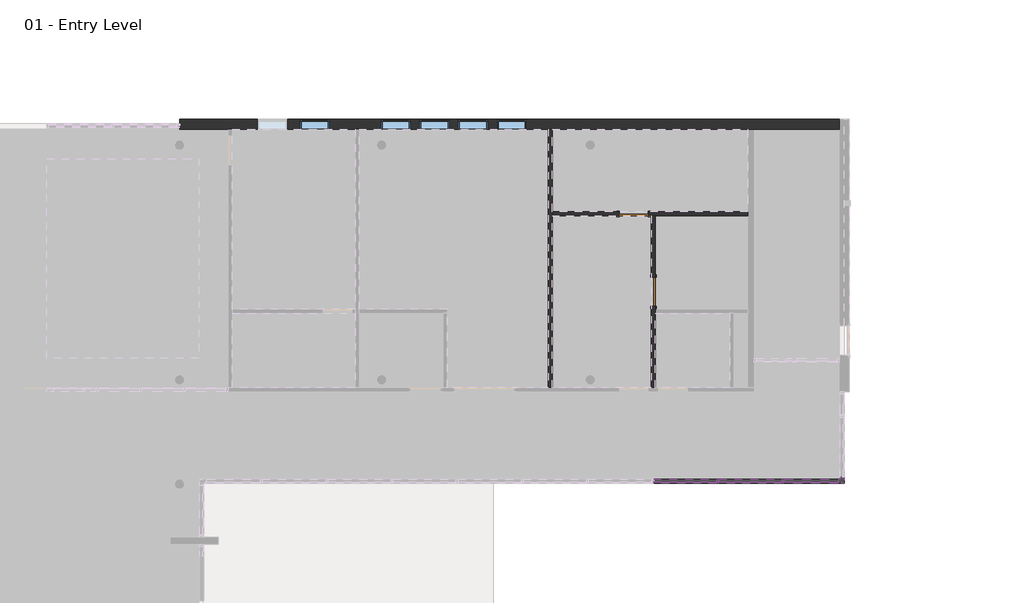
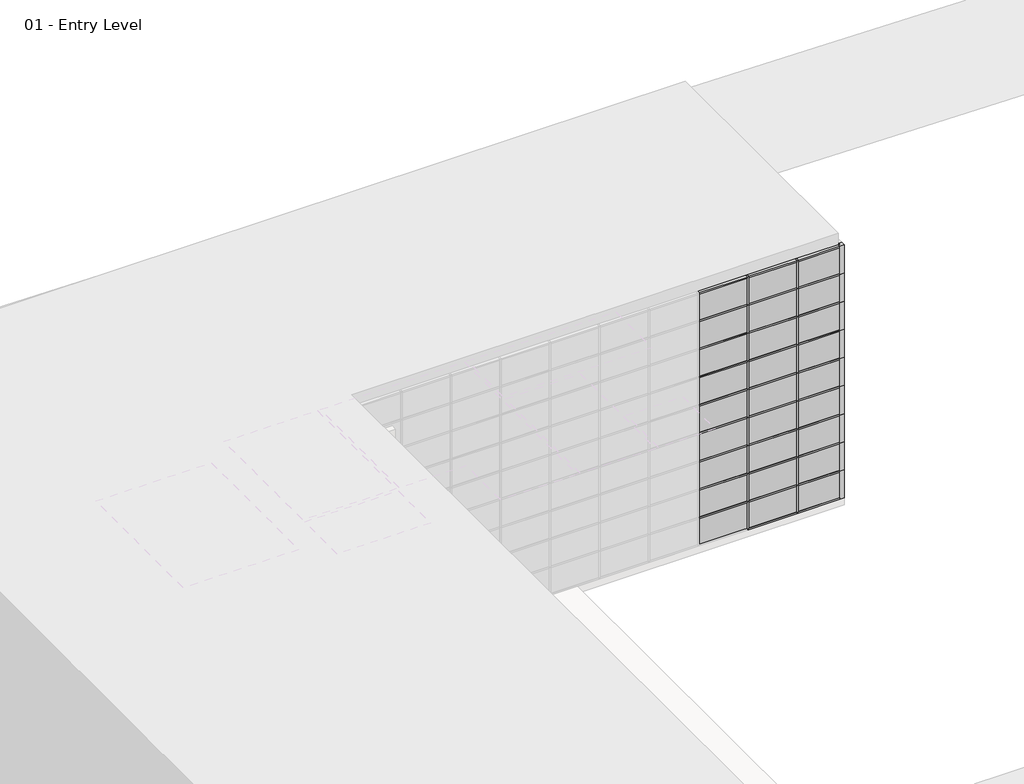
# One storey, part 30 of 34: 57 members, 28 plates, 5 windows, 4 walls, 2 doors.
"""IFC4 building model written with IfcOpenShell, lengths in millimetres."""

from ifc_helpers import new_model, si_unit, origin, place, context, project, spatial, faceted_brep, transform, mapped, element, save
from components import door_a1797ceb, door_a3eb833a, member_6230916f, member_2b49869a, member_391b434c, member_9e90ae50, member_515a5600, member_9fe7059d, member_9822c4e5, system_panel_glazed_1b9d6098, system_panel_glazed_70da479d, system_panel_glazed_379c68fb, system_panel_glazed_1c1023c8, system_panel_glazed_01db37db, window_dfee3f32

model = new_model("IFC4")

# Units and contexts
model_context = context("Model", 3, world=origin())
ifc_project = project(units=[si_unit("LENGTHUNIT", "METRE", prefix="MILLI")], contexts=[model_context])

# Site, building, storey
site = spatial("IfcSite", under=ifc_project)
building = spatial("IfcBuilding", under=site)
storey = spatial("IfcBuildingStorey", under=building, Name="01 - Entry Level", Elevation=0.0)

# Doors
placement = place(None, origin())
door_shape = door_a1797ceb(model_context)
element("IfcDoor", 1, ObjectType="Single-Flush : 36\" x 84\"", at=placement, inside=storey, context=model_context, shape_type="MappedRepresentation", body=[
    mapped(door_shape, transform((31255.6207476, 48656.8, 0.0), x_axis=(0.0, -1.0, 0.0), y_axis=(1.0, 0.0, 0.0), z_axis=(0.0, 0.0, 1.0))),
])
door_2_shape = door_a3eb833a(model_context)
element("IfcDoor", 2, ObjectType="Single-Flush : 36\" x 84\"", at=placement, inside=storey, context=model_context, shape_type="MappedRepresentation", body=[
    mapped(door_2_shape, transform((30646.0207476, 51082.5, 0.0), x_axis=(1.0, 0.0, 0.0), y_axis=(0.0, 1.0, 0.0), z_axis=(0.0, 0.0, 1.0))),
])

# Members
member_shape = member_6230916f(model_context)
element("IfcMember", 3, ObjectType="L Corner Mullion : 5\" x 5\" Corner", at=placement, inside=storey, context=model_context, shape_type="MappedRepresentation", body=[
    mapped(member_shape, transform((37148.4207476, 42751.3, 10972.8), x_axis=(0.0, -1.0, 0.0), y_axis=(1.0, 0.0, 0.0), z_axis=(0.0, 0.0, 1.0))),
])
element("IfcMember", 4, ObjectType="L Corner Mullion : 5\" x 5\" Corner", at=placement, inside=storey, context=model_context, shape_type="MappedRepresentation", body=[
    mapped(member_shape, transform((37148.4207476, 42751.3, 1219.2), x_axis=(0.0, -1.0, 0.0), y_axis=(1.0, 0.0, 0.0), z_axis=(0.0, 0.0, 1.0))),
])
element("IfcMember", 5, ObjectType="L Corner Mullion : 5\" x 5\" Corner", at=placement, inside=storey, context=model_context, shape_type="MappedRepresentation", body=[
    mapped(member_shape, transform((37148.4207476, 42751.3, 2438.4), x_axis=(0.0, -1.0, 0.0), y_axis=(1.0, 0.0, 0.0), z_axis=(0.0, 0.0, 1.0))),
])
element("IfcMember", 6, ObjectType="L Corner Mullion : 5\" x 5\" Corner", at=placement, inside=storey, context=model_context, shape_type="MappedRepresentation", body=[
    mapped(member_shape, transform((37148.4207476, 42751.3, 3657.6), x_axis=(0.0, -1.0, 0.0), y_axis=(1.0, 0.0, 0.0), z_axis=(0.0, 0.0, 1.0))),
])
element("IfcMember", 7, ObjectType="L Corner Mullion : 5\" x 5\" Corner", at=placement, inside=storey, context=model_context, shape_type="MappedRepresentation", body=[
    mapped(member_shape, transform((37148.4207476, 42751.3, 4876.8), x_axis=(0.0, -1.0, 0.0), y_axis=(1.0, 0.0, 0.0), z_axis=(0.0, 0.0, 1.0))),
])
element("IfcMember", 8, ObjectType="L Corner Mullion : 5\" x 5\" Corner", at=placement, inside=storey, context=model_context, shape_type="MappedRepresentation", body=[
    mapped(member_shape, transform((37148.4207476, 42751.3, 6096.0), x_axis=(0.0, -1.0, 0.0), y_axis=(1.0, 0.0, 0.0), z_axis=(0.0, 0.0, 1.0))),
])
element("IfcMember", 9, ObjectType="L Corner Mullion : 5\" x 5\" Corner", at=placement, inside=storey, context=model_context, shape_type="MappedRepresentation", body=[
    mapped(member_shape, transform((37148.4207476, 42751.3, 7315.2), x_axis=(0.0, -1.0, 0.0), y_axis=(1.0, 0.0, 0.0), z_axis=(0.0, 0.0, 1.0))),
])
element("IfcMember", 10, ObjectType="L Corner Mullion : 5\" x 5\" Corner", at=placement, inside=storey, context=model_context, shape_type="MappedRepresentation", body=[
    mapped(member_shape, transform((37148.4207476, 42751.3, 8534.4), x_axis=(0.0, -1.0, 0.0), y_axis=(1.0, 0.0, 0.0), z_axis=(0.0, 0.0, 1.0))),
])
element("IfcMember", 11, ObjectType="L Corner Mullion : 5\" x 5\" Corner", at=placement, inside=storey, context=model_context, shape_type="MappedRepresentation", body=[
    mapped(member_shape, transform((37148.4207476, 42751.3, 9753.6), x_axis=(0.0, -1.0, 0.0), y_axis=(1.0, 0.0, 0.0), z_axis=(0.0, 0.0, 1.0))),
])
member_2_shape = member_2b49869a(model_context)
element("IfcMember", 12, ObjectType="Rectangular Mullion : 2.5\" x 5\" rectangular", at=placement, inside=storey, context=model_context, shape_type="MappedRepresentation", body=[
    mapped(member_2_shape, transform((33262.2207476, 42751.3, 9753.6), x_axis=(1.0, 0.0, 0.0), y_axis=(0.0, -1.0, 0.0), z_axis=(0.0, 0.0, -1.0))),
])
element("IfcMember", 13, ObjectType="Rectangular Mullion : 2.5\" x 5\" rectangular", at=placement, inside=storey, context=model_context, shape_type="MappedRepresentation", body=[
    mapped(member_2_shape, transform((35294.2207476, 42751.3, 9753.6), x_axis=(1.0, 0.0, 0.0), y_axis=(0.0, -1.0, 0.0), z_axis=(0.0, 0.0, -1.0))),
])
member_3_shape = member_391b434c(model_context)
element("IfcMember", 14, ObjectType="Rectangular Mullion : 2.5\" x 5\" rectangular", at=placement, inside=storey, context=model_context, shape_type="MappedRepresentation", body=[
    mapped(member_3_shape, transform((33230.4707476, 42751.3, 10972.8), x_axis=(0.0, 0.0, 1.0), y_axis=(0.0, -1.0, 0.0), z_axis=(1.0, 0.0, 0.0))),
])
element("IfcMember", 15, ObjectType="Rectangular Mullion : 2.5\" x 5\" rectangular", at=placement, inside=storey, context=model_context, shape_type="MappedRepresentation", body=[
    mapped(member_3_shape, transform((35262.4707476, 42751.3, 10972.8), x_axis=(0.0, 0.0, 1.0), y_axis=(0.0, -1.0, 0.0), z_axis=(1.0, 0.0, 0.0))),
])
element("IfcMember", 16, ObjectType="Rectangular Mullion : 2.5\" x 5\" rectangular", at=placement, inside=storey, context=model_context, shape_type="MappedRepresentation", body=[
    mapped(member_3_shape, transform((33293.9707476, 42751.3, 0.0), x_axis=(0.0, 0.0, -1.0), y_axis=(0.0, -1.0, 0.0), z_axis=(-1.0, 0.0, 0.0))),
])
member_4_shape = member_9e90ae50(model_context)
element("IfcMember", 17, ObjectType="Rectangular Mullion : 2.5\" x 5\" rectangular", at=placement, inside=storey, context=model_context, shape_type="MappedRepresentation", body=[
    mapped(member_4_shape, transform((33230.4707476, 42751.3, 1219.2), x_axis=(0.0, 0.0, 1.0), y_axis=(0.0, -1.0, 0.0), z_axis=(1.0, 0.0, 0.0))),
])
element("IfcMember", 18, ObjectType="Rectangular Mullion : 2.5\" x 5\" rectangular", at=placement, inside=storey, context=model_context, shape_type="MappedRepresentation", body=[
    mapped(member_4_shape, transform((35262.4707476, 42751.3, 1219.2), x_axis=(0.0, 0.0, 1.0), y_axis=(0.0, -1.0, 0.0), z_axis=(1.0, 0.0, 0.0))),
])
element("IfcMember", 19, ObjectType="Rectangular Mullion : 2.5\" x 5\" rectangular", at=placement, inside=storey, context=model_context, shape_type="MappedRepresentation", body=[
    mapped(member_4_shape, transform((33230.4707476, 42751.3, 2438.4), x_axis=(0.0, 0.0, 1.0), y_axis=(0.0, -1.0, 0.0), z_axis=(1.0, 0.0, 0.0))),
])
element("IfcMember", 20, ObjectType="Rectangular Mullion : 2.5\" x 5\" rectangular", at=placement, inside=storey, context=model_context, shape_type="MappedRepresentation", body=[
    mapped(member_4_shape, transform((35262.4707476, 42751.3, 2438.4), x_axis=(0.0, 0.0, 1.0), y_axis=(0.0, -1.0, 0.0), z_axis=(1.0, 0.0, 0.0))),
])
element("IfcMember", 21, ObjectType="Rectangular Mullion : 2.5\" x 5\" rectangular", at=placement, inside=storey, context=model_context, shape_type="MappedRepresentation", body=[
    mapped(member_4_shape, transform((33230.4707476, 42751.3, 3657.6), x_axis=(0.0, 0.0, 1.0), y_axis=(0.0, -1.0, 0.0), z_axis=(1.0, 0.0, 0.0))),
])
element("IfcMember", 22, ObjectType="Rectangular Mullion : 2.5\" x 5\" rectangular", at=placement, inside=storey, context=model_context, shape_type="MappedRepresentation", body=[
    mapped(member_4_shape, transform((35262.4707476, 42751.3, 3657.6), x_axis=(0.0, 0.0, 1.0), y_axis=(0.0, -1.0, 0.0), z_axis=(1.0, 0.0, 0.0))),
])
element("IfcMember", 23, ObjectType="Rectangular Mullion : 2.5\" x 5\" rectangular", at=placement, inside=storey, context=model_context, shape_type="MappedRepresentation", body=[
    mapped(member_4_shape, transform((33230.4707476, 42751.3, 4876.8), x_axis=(0.0, 0.0, 1.0), y_axis=(0.0, -1.0, 0.0), z_axis=(1.0, 0.0, 0.0))),
])
element("IfcMember", 24, ObjectType="Rectangular Mullion : 2.5\" x 5\" rectangular", at=placement, inside=storey, context=model_context, shape_type="MappedRepresentation", body=[
    mapped(member_4_shape, transform((35262.4707476, 42751.3, 4876.8), x_axis=(0.0, 0.0, 1.0), y_axis=(0.0, -1.0, 0.0), z_axis=(1.0, 0.0, 0.0))),
])
element("IfcMember", 25, ObjectType="Rectangular Mullion : 2.5\" x 5\" rectangular", at=placement, inside=storey, context=model_context, shape_type="MappedRepresentation", body=[
    mapped(member_4_shape, transform((33230.4707476, 42751.3, 6096.0), x_axis=(0.0, 0.0, 1.0), y_axis=(0.0, -1.0, 0.0), z_axis=(1.0, 0.0, 0.0))),
])
element("IfcMember", 26, ObjectType="Rectangular Mullion : 2.5\" x 5\" rectangular", at=placement, inside=storey, context=model_context, shape_type="MappedRepresentation", body=[
    mapped(member_4_shape, transform((35262.4707476, 42751.3, 6096.0), x_axis=(0.0, 0.0, 1.0), y_axis=(0.0, -1.0, 0.0), z_axis=(1.0, 0.0, 0.0))),
])
element("IfcMember", 27, ObjectType="Rectangular Mullion : 2.5\" x 5\" rectangular", at=placement, inside=storey, context=model_context, shape_type="MappedRepresentation", body=[
    mapped(member_4_shape, transform((33230.4707476, 42751.3, 7315.2), x_axis=(0.0, 0.0, 1.0), y_axis=(0.0, -1.0, 0.0), z_axis=(1.0, 0.0, 0.0))),
])
element("IfcMember", 28, ObjectType="Rectangular Mullion : 2.5\" x 5\" rectangular", at=placement, inside=storey, context=model_context, shape_type="MappedRepresentation", body=[
    mapped(member_4_shape, transform((35262.4707476, 42751.3, 7315.2), x_axis=(0.0, 0.0, 1.0), y_axis=(0.0, -1.0, 0.0), z_axis=(1.0, 0.0, 0.0))),
])
element("IfcMember", 29, ObjectType="Rectangular Mullion : 2.5\" x 5\" rectangular", at=placement, inside=storey, context=model_context, shape_type="MappedRepresentation", body=[
    mapped(member_4_shape, transform((33230.4707476, 42751.3, 8534.4), x_axis=(0.0, 0.0, 1.0), y_axis=(0.0, -1.0, 0.0), z_axis=(1.0, 0.0, 0.0))),
])
element("IfcMember", 30, ObjectType="Rectangular Mullion : 2.5\" x 5\" rectangular", at=placement, inside=storey, context=model_context, shape_type="MappedRepresentation", body=[
    mapped(member_4_shape, transform((35262.4707476, 42751.3, 8534.4), x_axis=(0.0, 0.0, 1.0), y_axis=(0.0, -1.0, 0.0), z_axis=(1.0, 0.0, 0.0))),
])
element("IfcMember", 31, ObjectType="Rectangular Mullion : 2.5\" x 5\" rectangular", at=placement, inside=storey, context=model_context, shape_type="MappedRepresentation", body=[
    mapped(member_4_shape, transform((33230.4707476, 42751.3, 9753.6), x_axis=(0.0, 0.0, 1.0), y_axis=(0.0, -1.0, 0.0), z_axis=(1.0, 0.0, 0.0))),
])
element("IfcMember", 32, ObjectType="Rectangular Mullion : 2.5\" x 5\" rectangular", at=placement, inside=storey, context=model_context, shape_type="MappedRepresentation", body=[
    mapped(member_4_shape, transform((35262.4707476, 42751.3, 9753.6), x_axis=(0.0, 0.0, 1.0), y_axis=(0.0, -1.0, 0.0), z_axis=(1.0, 0.0, 0.0))),
])
element("IfcMember", 33, ObjectType="Rectangular Mullion : 2.5\" x 5\" rectangular", at=placement, inside=storey, context=model_context, shape_type="MappedRepresentation", body=[
    mapped(member_2_shape, transform((33262.2207476, 42751.3, 0.0), x_axis=(1.0, 0.0, 0.0), y_axis=(0.0, -1.0, 0.0), z_axis=(0.0, 0.0, -1.0))),
])
element("IfcMember", 34, ObjectType="Rectangular Mullion : 2.5\" x 5\" rectangular", at=placement, inside=storey, context=model_context, shape_type="MappedRepresentation", body=[
    mapped(member_2_shape, transform((35294.2207476, 42751.3, 0.0), x_axis=(1.0, 0.0, 0.0), y_axis=(0.0, -1.0, 0.0), z_axis=(0.0, 0.0, -1.0))),
])
element("IfcMember", 35, ObjectType="Rectangular Mullion : 2.5\" x 5\" rectangular", at=placement, inside=storey, context=model_context, shape_type="MappedRepresentation", body=[
    mapped(member_2_shape, transform((33262.2207476, 42751.3, 1219.2), x_axis=(1.0, 0.0, 0.0), y_axis=(0.0, -1.0, 0.0), z_axis=(0.0, 0.0, -1.0))),
])
element("IfcMember", 36, ObjectType="Rectangular Mullion : 2.5\" x 5\" rectangular", at=placement, inside=storey, context=model_context, shape_type="MappedRepresentation", body=[
    mapped(member_2_shape, transform((35294.2207476, 42751.3, 1219.2), x_axis=(1.0, 0.0, 0.0), y_axis=(0.0, -1.0, 0.0), z_axis=(0.0, 0.0, -1.0))),
])
element("IfcMember", 37, ObjectType="Rectangular Mullion : 2.5\" x 5\" rectangular", at=placement, inside=storey, context=model_context, shape_type="MappedRepresentation", body=[
    mapped(member_2_shape, transform((33262.2207476, 42751.3, 2438.4), x_axis=(1.0, 0.0, 0.0), y_axis=(0.0, -1.0, 0.0), z_axis=(0.0, 0.0, -1.0))),
])
element("IfcMember", 38, ObjectType="Rectangular Mullion : 2.5\" x 5\" rectangular", at=placement, inside=storey, context=model_context, shape_type="MappedRepresentation", body=[
    mapped(member_2_shape, transform((35294.2207476, 42751.3, 2438.4), x_axis=(1.0, 0.0, 0.0), y_axis=(0.0, -1.0, 0.0), z_axis=(0.0, 0.0, -1.0))),
])
element("IfcMember", 39, ObjectType="Rectangular Mullion : 2.5\" x 5\" rectangular", at=placement, inside=storey, context=model_context, shape_type="MappedRepresentation", body=[
    mapped(member_2_shape, transform((33262.2207476, 42751.3, 3657.6), x_axis=(1.0, 0.0, 0.0), y_axis=(0.0, -1.0, 0.0), z_axis=(0.0, 0.0, -1.0))),
])
element("IfcMember", 40, ObjectType="Rectangular Mullion : 2.5\" x 5\" rectangular", at=placement, inside=storey, context=model_context, shape_type="MappedRepresentation", body=[
    mapped(member_2_shape, transform((35294.2207476, 42751.3, 3657.6), x_axis=(1.0, 0.0, 0.0), y_axis=(0.0, -1.0, 0.0), z_axis=(0.0, 0.0, -1.0))),
])
element("IfcMember", 41, ObjectType="Rectangular Mullion : 2.5\" x 5\" rectangular", at=placement, inside=storey, context=model_context, shape_type="MappedRepresentation", body=[
    mapped(member_2_shape, transform((33262.2207476, 42751.3, 4876.8), x_axis=(1.0, 0.0, 0.0), y_axis=(0.0, -1.0, 0.0), z_axis=(0.0, 0.0, -1.0))),
])
element("IfcMember", 42, ObjectType="Rectangular Mullion : 2.5\" x 5\" rectangular", at=placement, inside=storey, context=model_context, shape_type="MappedRepresentation", body=[
    mapped(member_2_shape, transform((35294.2207476, 42751.3, 4876.8), x_axis=(1.0, 0.0, 0.0), y_axis=(0.0, -1.0, 0.0), z_axis=(0.0, 0.0, -1.0))),
])
element("IfcMember", 43, ObjectType="Rectangular Mullion : 2.5\" x 5\" rectangular", at=placement, inside=storey, context=model_context, shape_type="MappedRepresentation", body=[
    mapped(member_2_shape, transform((33262.2207476, 42751.3, 6096.0), x_axis=(1.0, 0.0, 0.0), y_axis=(0.0, -1.0, 0.0), z_axis=(0.0, 0.0, -1.0))),
])
element("IfcMember", 44, ObjectType="Rectangular Mullion : 2.5\" x 5\" rectangular", at=placement, inside=storey, context=model_context, shape_type="MappedRepresentation", body=[
    mapped(member_2_shape, transform((35294.2207476, 42751.3, 6096.0), x_axis=(1.0, 0.0, 0.0), y_axis=(0.0, -1.0, 0.0), z_axis=(0.0, 0.0, -1.0))),
])
element("IfcMember", 45, ObjectType="Rectangular Mullion : 2.5\" x 5\" rectangular", at=placement, inside=storey, context=model_context, shape_type="MappedRepresentation", body=[
    mapped(member_2_shape, transform((33262.2207476, 42751.3, 7315.2), x_axis=(1.0, 0.0, 0.0), y_axis=(0.0, -1.0, 0.0), z_axis=(0.0, 0.0, -1.0))),
])
element("IfcMember", 46, ObjectType="Rectangular Mullion : 2.5\" x 5\" rectangular", at=placement, inside=storey, context=model_context, shape_type="MappedRepresentation", body=[
    mapped(member_2_shape, transform((35294.2207476, 42751.3, 7315.2), x_axis=(1.0, 0.0, 0.0), y_axis=(0.0, -1.0, 0.0), z_axis=(0.0, 0.0, -1.0))),
])
element("IfcMember", 47, ObjectType="Rectangular Mullion : 2.5\" x 5\" rectangular", at=placement, inside=storey, context=model_context, shape_type="MappedRepresentation", body=[
    mapped(member_2_shape, transform((33262.2207476, 42751.3, 8534.4), x_axis=(1.0, 0.0, 0.0), y_axis=(0.0, -1.0, 0.0), z_axis=(0.0, 0.0, -1.0))),
])
element("IfcMember", 48, ObjectType="Rectangular Mullion : 2.5\" x 5\" rectangular", at=placement, inside=storey, context=model_context, shape_type="MappedRepresentation", body=[
    mapped(member_2_shape, transform((35294.2207476, 42751.3, 8534.4), x_axis=(1.0, 0.0, 0.0), y_axis=(0.0, -1.0, 0.0), z_axis=(0.0, 0.0, -1.0))),
])
member_5_shape = member_515a5600(model_context)
element("IfcMember", 49, ObjectType="Rectangular Mullion : 2.5\" x 5\" rectangular", at=placement, inside=storey, context=model_context, shape_type="MappedRepresentation", body=[
    mapped(member_5_shape, transform((37021.4207476, 42751.3, 10972.8), x_axis=(0.0, 0.0, 1.0), y_axis=(0.0, -1.0, 0.0), z_axis=(1.0, 0.0, 0.0))),
])
element("IfcMember", 50, ObjectType="Rectangular Mullion : 2.5\" x 5\" rectangular", at=placement, inside=storey, context=model_context, shape_type="MappedRepresentation", body=[
    mapped(member_5_shape, transform((35325.9707476, 42751.3, 0.0), x_axis=(0.0, 0.0, -1.0), y_axis=(0.0, -1.0, 0.0), z_axis=(-1.0, 0.0, 0.0))),
])
member_6_shape = member_9fe7059d(model_context)
element("IfcMember", 51, ObjectType="Rectangular Mullion : 2.5\" x 5\" rectangular", at=placement, inside=storey, context=model_context, shape_type="MappedRepresentation", body=[
    mapped(member_6_shape, transform((37021.4207476, 42751.3, 1219.2), x_axis=(0.0, 0.0, 1.0), y_axis=(0.0, -1.0, 0.0), z_axis=(1.0, 0.0, 0.0))),
])
element("IfcMember", 52, ObjectType="Rectangular Mullion : 2.5\" x 5\" rectangular", at=placement, inside=storey, context=model_context, shape_type="MappedRepresentation", body=[
    mapped(member_6_shape, transform((37021.4207476, 42751.3, 2438.4), x_axis=(0.0, 0.0, 1.0), y_axis=(0.0, -1.0, 0.0), z_axis=(1.0, 0.0, 0.0))),
])
element("IfcMember", 53, ObjectType="Rectangular Mullion : 2.5\" x 5\" rectangular", at=placement, inside=storey, context=model_context, shape_type="MappedRepresentation", body=[
    mapped(member_6_shape, transform((37021.4207476, 42751.3, 3657.6), x_axis=(0.0, 0.0, 1.0), y_axis=(0.0, -1.0, 0.0), z_axis=(1.0, 0.0, 0.0))),
])
element("IfcMember", 54, ObjectType="Rectangular Mullion : 2.5\" x 5\" rectangular", at=placement, inside=storey, context=model_context, shape_type="MappedRepresentation", body=[
    mapped(member_6_shape, transform((37021.4207476, 42751.3, 4876.8), x_axis=(0.0, 0.0, 1.0), y_axis=(0.0, -1.0, 0.0), z_axis=(1.0, 0.0, 0.0))),
])
element("IfcMember", 55, ObjectType="Rectangular Mullion : 2.5\" x 5\" rectangular", at=placement, inside=storey, context=model_context, shape_type="MappedRepresentation", body=[
    mapped(member_6_shape, transform((37021.4207476, 42751.3, 6096.0), x_axis=(0.0, 0.0, 1.0), y_axis=(0.0, -1.0, 0.0), z_axis=(1.0, 0.0, 0.0))),
])
element("IfcMember", 56, ObjectType="Rectangular Mullion : 2.5\" x 5\" rectangular", at=placement, inside=storey, context=model_context, shape_type="MappedRepresentation", body=[
    mapped(member_6_shape, transform((37021.4207476, 42751.3, 7315.2), x_axis=(0.0, 0.0, 1.0), y_axis=(0.0, -1.0, 0.0), z_axis=(1.0, 0.0, 0.0))),
])
element("IfcMember", 57, ObjectType="Rectangular Mullion : 2.5\" x 5\" rectangular", at=placement, inside=storey, context=model_context, shape_type="MappedRepresentation", body=[
    mapped(member_6_shape, transform((37021.4207476, 42751.3, 8534.4), x_axis=(0.0, 0.0, 1.0), y_axis=(0.0, -1.0, 0.0), z_axis=(1.0, 0.0, 0.0))),
])
element("IfcMember", 58, ObjectType="Rectangular Mullion : 2.5\" x 5\" rectangular", at=placement, inside=storey, context=model_context, shape_type="MappedRepresentation", body=[
    mapped(member_6_shape, transform((37021.4207476, 42751.3, 9753.6), x_axis=(0.0, 0.0, 1.0), y_axis=(0.0, -1.0, 0.0), z_axis=(1.0, 0.0, 0.0))),
])
member_7_shape = member_9822c4e5(model_context)
element("IfcMember", 59, ObjectType="Rectangular Mullion : 2.5\" x 5\" rectangular", at=placement, inside=storey, context=model_context, shape_type="MappedRepresentation", body=[
    mapped(member_7_shape, transform((37148.4207476, 42878.3, 0.0), x_axis=(0.0, 0.0, -1.0), y_axis=(1.0, 0.0, 0.0), z_axis=(0.0, -1.0, 0.0))),
])

# Plates
system_panel_glazed_shape = system_panel_glazed_1b9d6098(model_context)
element("IfcPlate", 60, ObjectType="System Panel : Glazed", at=placement, inside=storey, context=model_context, shape_type="MappedRepresentation", body=[
    mapped(system_panel_glazed_shape, transform((32246.2207476, 42751.3, 63.5), x_axis=(1.0, 0.0, 0.0), y_axis=(0.0, 1.0, 0.0), z_axis=(0.0, 0.0, 1.0))),
])
element("IfcPlate", 61, ObjectType="System Panel : Glazed", at=placement, inside=storey, context=model_context, shape_type="MappedRepresentation", body=[
    mapped(system_panel_glazed_shape, transform((34278.2207476, 42751.3, 63.5), x_axis=(1.0, 0.0, 0.0), y_axis=(0.0, 1.0, 0.0), z_axis=(0.0, 0.0, 1.0))),
])
element("IfcPlate", 62, ObjectType="System Panel : Glazed", at=placement, inside=storey, context=model_context, shape_type="MappedRepresentation", body=[
    mapped(system_panel_glazed_shape, transform((32246.2207476, 42751.3, 9785.35), x_axis=(1.0, 0.0, 0.0), y_axis=(0.0, 1.0, 0.0), z_axis=(0.0, 0.0, 1.0))),
])
element("IfcPlate", 63, ObjectType="System Panel : Glazed", at=placement, inside=storey, context=model_context, shape_type="MappedRepresentation", body=[
    mapped(system_panel_glazed_shape, transform((34278.2207476, 42751.3, 9785.35), x_axis=(1.0, 0.0, 0.0), y_axis=(0.0, 1.0, 0.0), z_axis=(0.0, 0.0, 1.0))),
])
system_panel_glazed_2_shape = system_panel_glazed_70da479d(model_context)
element("IfcPlate", 64, ObjectType="System Panel : Glazed", at=placement, inside=storey, context=model_context, shape_type="MappedRepresentation", body=[
    mapped(system_panel_glazed_2_shape, transform((32246.2207476, 42751.3, 1250.95), x_axis=(1.0, 0.0, 0.0), y_axis=(0.0, 1.0, 0.0), z_axis=(0.0, 0.0, 1.0))),
])
element("IfcPlate", 65, ObjectType="System Panel : Glazed", at=placement, inside=storey, context=model_context, shape_type="MappedRepresentation", body=[
    mapped(system_panel_glazed_2_shape, transform((34278.2207476, 42751.3, 1250.95), x_axis=(1.0, 0.0, 0.0), y_axis=(0.0, 1.0, 0.0), z_axis=(0.0, 0.0, 1.0))),
])
element("IfcPlate", 66, ObjectType="System Panel : Glazed", at=placement, inside=storey, context=model_context, shape_type="MappedRepresentation", body=[
    mapped(system_panel_glazed_2_shape, transform((32246.2207476, 42751.3, 2470.15), x_axis=(1.0, 0.0, 0.0), y_axis=(0.0, 1.0, 0.0), z_axis=(0.0, 0.0, 1.0))),
])
element("IfcPlate", 67, ObjectType="System Panel : Glazed", at=placement, inside=storey, context=model_context, shape_type="MappedRepresentation", body=[
    mapped(system_panel_glazed_2_shape, transform((34278.2207476, 42751.3, 2470.15), x_axis=(1.0, 0.0, 0.0), y_axis=(0.0, 1.0, 0.0), z_axis=(0.0, 0.0, 1.0))),
])
element("IfcPlate", 68, ObjectType="System Panel : Glazed", at=placement, inside=storey, context=model_context, shape_type="MappedRepresentation", body=[
    mapped(system_panel_glazed_2_shape, transform((32246.2207476, 42751.3, 3689.35), x_axis=(1.0, 0.0, 0.0), y_axis=(0.0, 1.0, 0.0), z_axis=(0.0, 0.0, 1.0))),
])
element("IfcPlate", 69, ObjectType="System Panel : Glazed", at=placement, inside=storey, context=model_context, shape_type="MappedRepresentation", body=[
    mapped(system_panel_glazed_2_shape, transform((34278.2207476, 42751.3, 3689.35), x_axis=(1.0, 0.0, 0.0), y_axis=(0.0, 1.0, 0.0), z_axis=(0.0, 0.0, 1.0))),
])
element("IfcPlate", 70, ObjectType="System Panel : Glazed", at=placement, inside=storey, context=model_context, shape_type="MappedRepresentation", body=[
    mapped(system_panel_glazed_2_shape, transform((32246.2207476, 42751.3, 4908.55), x_axis=(1.0, 0.0, 0.0), y_axis=(0.0, 1.0, 0.0), z_axis=(0.0, 0.0, 1.0))),
])
element("IfcPlate", 71, ObjectType="System Panel : Glazed", at=placement, inside=storey, context=model_context, shape_type="MappedRepresentation", body=[
    mapped(system_panel_glazed_2_shape, transform((34278.2207476, 42751.3, 4908.55), x_axis=(1.0, 0.0, 0.0), y_axis=(0.0, 1.0, 0.0), z_axis=(0.0, 0.0, 1.0))),
])
element("IfcPlate", 72, ObjectType="System Panel : Glazed", at=placement, inside=storey, context=model_context, shape_type="MappedRepresentation", body=[
    mapped(system_panel_glazed_2_shape, transform((32246.2207476, 42751.3, 6127.75), x_axis=(1.0, 0.0, 0.0), y_axis=(0.0, 1.0, 0.0), z_axis=(0.0, 0.0, 1.0))),
])
element("IfcPlate", 73, ObjectType="System Panel : Glazed", at=placement, inside=storey, context=model_context, shape_type="MappedRepresentation", body=[
    mapped(system_panel_glazed_2_shape, transform((34278.2207476, 42751.3, 6127.75), x_axis=(1.0, 0.0, 0.0), y_axis=(0.0, 1.0, 0.0), z_axis=(0.0, 0.0, 1.0))),
])
element("IfcPlate", 74, ObjectType="System Panel : Glazed", at=placement, inside=storey, context=model_context, shape_type="MappedRepresentation", body=[
    mapped(system_panel_glazed_2_shape, transform((32246.2207476, 42751.3, 7346.95), x_axis=(1.0, 0.0, 0.0), y_axis=(0.0, 1.0, 0.0), z_axis=(0.0, 0.0, 1.0))),
])
element("IfcPlate", 75, ObjectType="System Panel : Glazed", at=placement, inside=storey, context=model_context, shape_type="MappedRepresentation", body=[
    mapped(system_panel_glazed_2_shape, transform((34278.2207476, 42751.3, 7346.95), x_axis=(1.0, 0.0, 0.0), y_axis=(0.0, 1.0, 0.0), z_axis=(0.0, 0.0, 1.0))),
])
element("IfcPlate", 76, ObjectType="System Panel : Glazed", at=placement, inside=storey, context=model_context, shape_type="MappedRepresentation", body=[
    mapped(system_panel_glazed_2_shape, transform((32246.2207476, 42751.3, 8566.15), x_axis=(1.0, 0.0, 0.0), y_axis=(0.0, 1.0, 0.0), z_axis=(0.0, 0.0, 1.0))),
])
element("IfcPlate", 77, ObjectType="System Panel : Glazed", at=placement, inside=storey, context=model_context, shape_type="MappedRepresentation", body=[
    mapped(system_panel_glazed_2_shape, transform((34278.2207476, 42751.3, 8566.15), x_axis=(1.0, 0.0, 0.0), y_axis=(0.0, 1.0, 0.0), z_axis=(0.0, 0.0, 1.0))),
])
system_panel_glazed_3_shape = system_panel_glazed_379c68fb(model_context)
element("IfcPlate", 78, ObjectType="System Panel : Glazed", at=placement, inside=storey, context=model_context, shape_type="MappedRepresentation", body=[
    mapped(system_panel_glazed_3_shape, transform((36173.6957476, 42751.3, 63.5), x_axis=(1.0, 0.0, 0.0), y_axis=(0.0, 1.0, 0.0), z_axis=(0.0, 0.0, 1.0))),
])
element("IfcPlate", 79, ObjectType="System Panel : Glazed", at=placement, inside=storey, context=model_context, shape_type="MappedRepresentation", body=[
    mapped(system_panel_glazed_3_shape, transform((36173.6957476, 42751.3, 9785.35), x_axis=(1.0, 0.0, 0.0), y_axis=(0.0, 1.0, 0.0), z_axis=(0.0, 0.0, 1.0))),
])
system_panel_glazed_4_shape = system_panel_glazed_1c1023c8(model_context)
element("IfcPlate", 80, ObjectType="System Panel : Glazed", at=placement, inside=storey, context=model_context, shape_type="MappedRepresentation", body=[
    mapped(system_panel_glazed_4_shape, transform((36173.6957476, 42751.3, 1250.95), x_axis=(1.0, 0.0, 0.0), y_axis=(0.0, 1.0, 0.0), z_axis=(0.0, 0.0, 1.0))),
])
element("IfcPlate", 81, ObjectType="System Panel : Glazed", at=placement, inside=storey, context=model_context, shape_type="MappedRepresentation", body=[
    mapped(system_panel_glazed_4_shape, transform((36173.6957476, 42751.3, 2470.15), x_axis=(1.0, 0.0, 0.0), y_axis=(0.0, 1.0, 0.0), z_axis=(0.0, 0.0, 1.0))),
])
element("IfcPlate", 82, ObjectType="System Panel : Glazed", at=placement, inside=storey, context=model_context, shape_type="MappedRepresentation", body=[
    mapped(system_panel_glazed_4_shape, transform((36173.6957476, 42751.3, 3689.35), x_axis=(1.0, 0.0, 0.0), y_axis=(0.0, 1.0, 0.0), z_axis=(0.0, 0.0, 1.0))),
])
element("IfcPlate", 83, ObjectType="System Panel : Glazed", at=placement, inside=storey, context=model_context, shape_type="MappedRepresentation", body=[
    mapped(system_panel_glazed_4_shape, transform((36173.6957476, 42751.3, 4908.55), x_axis=(1.0, 0.0, 0.0), y_axis=(0.0, 1.0, 0.0), z_axis=(0.0, 0.0, 1.0))),
])
element("IfcPlate", 84, ObjectType="System Panel : Glazed", at=placement, inside=storey, context=model_context, shape_type="MappedRepresentation", body=[
    mapped(system_panel_glazed_4_shape, transform((36173.6957476, 42751.3, 6127.75), x_axis=(1.0, 0.0, 0.0), y_axis=(0.0, 1.0, 0.0), z_axis=(0.0, 0.0, 1.0))),
])
element("IfcPlate", 85, ObjectType="System Panel : Glazed", at=placement, inside=storey, context=model_context, shape_type="MappedRepresentation", body=[
    mapped(system_panel_glazed_4_shape, transform((36173.6957476, 42751.3, 7346.95), x_axis=(1.0, 0.0, 0.0), y_axis=(0.0, 1.0, 0.0), z_axis=(0.0, 0.0, 1.0))),
])
element("IfcPlate", 86, ObjectType="System Panel : Glazed", at=placement, inside=storey, context=model_context, shape_type="MappedRepresentation", body=[
    mapped(system_panel_glazed_4_shape, transform((36173.6957476, 42751.3, 8566.15), x_axis=(1.0, 0.0, 0.0), y_axis=(0.0, 1.0, 0.0), z_axis=(0.0, 0.0, 1.0))),
])
system_panel_glazed_5_shape = system_panel_glazed_01db37db(model_context)
element("IfcPlate", 87, ObjectType="System Panel : Glazed", at=placement, inside=storey, context=model_context, shape_type="MappedRepresentation", body=[
    mapped(system_panel_glazed_5_shape, transform((37148.4207476, 43814.925, 63.5), x_axis=(0.0, 1.0, 0.0), y_axis=(-1.0, 0.0, 0.0), z_axis=(0.0, 0.0, 1.0))),
])

# Walls
element("IfcWall", 88, ObjectType="Exterior - EIFS on CMU", at=placement, inside=storey, context=model_context, shape_type="Brep", body=[
    faceted_brep([(37046.8207476, 54032.075, 0.0), (16485.5207476, 54032.075, 0.0), (16485.5207476, 54032.075, 10972.8), (34405.2207476, 54032.075, 10972.8), (34405.2207476, 54032.075, 3657.6), (37046.8207476, 54032.075, 3657.6), (27295.7607476, 54032.075, 2133.6), (26381.3607476, 54032.075, 2133.6), (26381.3607476, 54032.075, 914.4), (27295.7607476, 54032.075, 914.4), (26091.8007476, 54032.075, 2133.6), (25177.4007476, 54032.075, 2133.6), (25177.4007476, 54032.075, 914.4), (26091.8007476, 54032.075, 914.4), (24887.8407476, 54032.075, 2133.6), (23973.4407476, 54032.075, 2133.6), (23973.4407476, 54032.075, 914.4), (24887.8407476, 54032.075, 914.4), (23683.8807476, 54032.075, 2133.6), (22769.4807476, 54032.075, 2133.6), (22769.4807476, 54032.075, 914.4), (23683.8807476, 54032.075, 914.4), (21159.1207476, 54032.075, 2133.6), (20244.7207476, 54032.075, 2133.6), (20244.7207476, 54032.075, 914.4), (21159.1207476, 54032.075, 914.4), (19838.3207476, 54032.075, 2133.6), (18923.9207476, 54032.075, 2133.6), (18923.9207476, 54032.075, 914.4), (19838.3207476, 54032.075, 914.4), (19381.1207476, 54032.075, 5791.2), (18466.7207476, 54032.075, 5791.2), (18466.7207476, 54032.075, 4572.0), (19381.1207476, 54032.075, 4572.0), (21565.5207476, 54032.075, 5791.2), (20651.1207476, 54032.075, 5791.2), (20651.1207476, 54032.075, 4572.0), (21565.5207476, 54032.075, 4572.0), (24003.9207476, 54032.075, 5791.2), (23089.5207476, 54032.075, 5791.2), (23089.5207476, 54032.075, 4572.0), (24003.9207476, 54032.075, 4572.0), (26569.3207476, 54032.075, 5791.2), (25654.9207476, 54032.075, 5791.2), (25654.9207476, 54032.075, 4572.0), (26569.3207476, 54032.075, 4572.0), (28398.1207476, 54032.075, 5791.2), (27483.7207476, 54032.075, 5791.2), (27483.7207476, 54032.075, 4572.0), (28398.1207476, 54032.075, 4572.0), (31293.7207476, 54032.075, 5791.2), (30379.3207476, 54032.075, 5791.2), (30379.3207476, 54032.075, 4572.0), (31293.7207476, 54032.075, 4572.0), (33846.4207476, 54032.075, 5791.2), (32932.0207476, 54032.075, 5791.2), (32932.0207476, 54032.075, 4572.0), (33846.4207476, 54032.075, 4572.0), (21387.7207476, 54032.075, 9448.8), (20473.3207476, 54032.075, 9448.8), (20473.3207476, 54032.075, 8229.6), (21387.7207476, 54032.075, 8229.6), (25578.7207476, 54032.075, 9448.8), (24664.3207476, 54032.075, 9448.8), (24664.3207476, 54032.075, 8229.6), (25578.7207476, 54032.075, 8229.6), (24054.7207476, 54032.075, 9448.8), (23140.3207476, 54032.075, 9448.8), (23140.3207476, 54032.075, 8229.6), (24054.7207476, 54032.075, 8229.6), (27407.5207476, 54032.075, 9448.8), (26493.1207476, 54032.075, 9448.8), (26493.1207476, 54032.075, 8229.6), (27407.5207476, 54032.075, 8229.6), (28931.5207476, 54032.075, 9448.8), (28017.1207476, 54032.075, 9448.8), (28017.1207476, 54032.075, 8229.6), (28931.5207476, 54032.075, 8229.6), (33846.4207476, 54032.075, 9448.8), (32932.0207476, 54032.075, 9448.8), (32932.0207476, 54032.075, 8229.6), (33846.4207476, 54032.075, 8229.6), (32322.4207476, 54032.075, 9448.8), (31408.0207476, 54032.075, 9448.8), (31408.0207476, 54032.075, 8229.6), (32322.4207476, 54032.075, 8229.6), (30798.4207476, 54032.075, 9448.8), (29884.0207476, 54032.075, 9448.8), (29884.0207476, 54032.075, 8229.6), (30798.4207476, 54032.075, 8229.6), (16485.5207476, 53724.1, 10972.8), (16485.5207476, 53724.1, 0.0), (17996.8207476, 53724.1, 0.0), (18123.8207476, 53724.1, 0.0), (21959.2207476, 53724.1, 0.0), (22086.2207476, 53724.1, 0.0), (27979.0207476, 53724.1, 0.0), (28106.0207476, 53724.1, 0.0), (34202.0207476, 53724.1, 0.0), (34405.2207476, 53724.1, 0.0), (37046.8207476, 53724.1, 0.0), (37046.8207476, 53724.1, 3657.6), (34405.2207476, 53724.1, 3657.6), (34405.2207476, 53724.1, 10972.8), (34202.0207476, 53724.1, 10972.8), (26099.4207476, 53724.1, 10972.8), (25972.4207476, 53724.1, 10972.8), (20079.6207476, 53724.1, 10972.8), (19952.6207476, 53724.1, 10972.8), (27295.7607476, 53724.1, 2133.6), (27295.7607476, 53724.1, 914.4), (26381.3607476, 53724.1, 914.4), (26381.3607476, 53724.1, 2133.6), (26091.8007476, 53724.1, 2133.6), (26091.8007476, 53724.1, 914.4), (25177.4007476, 53724.1, 914.4), (25177.4007476, 53724.1, 2133.6), (24887.8407476, 53724.1, 2133.6), (24887.8407476, 53724.1, 914.4), (23973.4407476, 53724.1, 914.4), (23973.4407476, 53724.1, 2133.6), (23683.8807476, 53724.1, 2133.6), (23683.8807476, 53724.1, 914.4), (22769.4807476, 53724.1, 914.4), (22769.4807476, 53724.1, 2133.6), (21159.1207476, 53724.1, 2133.6), (21159.1207476, 53724.1, 914.4), (20244.7207476, 53724.1, 914.4), (20244.7207476, 53724.1, 2133.6), (19838.3207476, 53724.1, 2133.6), (19838.3207476, 53724.1, 914.4), (18923.9207476, 53724.1, 914.4), (18923.9207476, 53724.1, 2133.6), (19381.1207476, 53724.1, 5791.2), (19381.1207476, 53724.1, 4572.0), (18466.7207476, 53724.1, 4572.0), (18466.7207476, 53724.1, 5791.2), (21565.5207476, 53724.1, 5791.2), (21565.5207476, 53724.1, 4572.0), (20651.1207476, 53724.1, 4572.0), (20651.1207476, 53724.1, 5791.2), (24003.9207476, 53724.1, 5791.2), (24003.9207476, 53724.1, 4572.0), (23089.5207476, 53724.1, 4572.0), (23089.5207476, 53724.1, 5791.2), (26569.3207476, 53724.1, 5791.2), (26569.3207476, 53724.1, 4572.0), (25654.9207476, 53724.1, 4572.0), (25654.9207476, 53724.1, 5791.2), (28398.1207476, 53724.1, 5791.2), (28398.1207476, 53724.1, 4572.0), (27483.7207476, 53724.1, 4572.0), (27483.7207476, 53724.1, 5791.2), (31293.7207476, 53724.1, 5791.2), (31293.7207476, 53724.1, 4572.0), (30379.3207476, 53724.1, 4572.0), (30379.3207476, 53724.1, 5791.2), (33846.4207476, 53724.1, 5791.2), (33846.4207476, 53724.1, 4572.0), (32932.0207476, 53724.1, 4572.0), (32932.0207476, 53724.1, 5791.2), (21387.7207476, 53724.1, 9448.8), (21387.7207476, 53724.1, 8229.6), (20473.3207476, 53724.1, 8229.6), (20473.3207476, 53724.1, 9448.8), (25578.7207476, 53724.1, 9448.8), (25578.7207476, 53724.1, 8229.6), (24664.3207476, 53724.1, 8229.6), (24664.3207476, 53724.1, 9448.8), (24054.7207476, 53724.1, 9448.8), (24054.7207476, 53724.1, 8229.6), (23140.3207476, 53724.1, 8229.6), (23140.3207476, 53724.1, 9448.8), (27407.5207476, 53724.1, 9448.8), (27407.5207476, 53724.1, 8229.6), (26493.1207476, 53724.1, 8229.6), (26493.1207476, 53724.1, 9448.8), (28931.5207476, 53724.1, 9448.8), (28931.5207476, 53724.1, 8229.6), (28017.1207476, 53724.1, 8229.6), (28017.1207476, 53724.1, 9448.8), (33846.4207476, 53724.1, 9448.8), (33846.4207476, 53724.1, 8229.6), (32932.0207476, 53724.1, 8229.6), (32932.0207476, 53724.1, 9448.8), (32322.4207476, 53724.1, 9448.8), (32322.4207476, 53724.1, 8229.6), (31408.0207476, 53724.1, 8229.6), (31408.0207476, 53724.1, 9448.8), (30798.4207476, 53724.1, 9448.8), (30798.4207476, 53724.1, 8229.6), (29884.0207476, 53724.1, 8229.6), (29884.0207476, 53724.1, 9448.8)], [[[0, 1, 2, 3, 4, 5], [6, 7, 8, 9], [10, 11, 12, 13], [14, 15, 16, 17], [18, 19, 20, 21], [22, 23, 24, 25], [26, 27, 28, 29], [30, 31, 32, 33], [34, 35, 36, 37], [38, 39, 40, 41], [42, 43, 44, 45], [46, 47, 48, 49], [50, 51, 52, 53], [54, 55, 56, 57], [58, 59, 60, 61], [62, 63, 64, 65], [66, 67, 68, 69], [70, 71, 72, 73], [74, 75, 76, 77], [78, 79, 80, 81], [82, 83, 84, 85], [86, 87, 88, 89]], [[90, 91, 92, 93, 94, 95, 96, 97, 98, 99, 100, 101, 102, 103, 104, 105, 106, 107, 108], [109, 110, 111, 112], [113, 114, 115, 116], [117, 118, 119, 120], [121, 122, 123, 124], [125, 126, 127, 128], [129, 130, 131, 132], [133, 134, 135, 136], [137, 138, 139, 140], [141, 142, 143, 144], [145, 146, 147, 148], [149, 150, 151, 152], [153, 154, 155, 156], [157, 158, 159, 160], [161, 162, 163, 164], [165, 166, 167, 168], [169, 170, 171, 172], [173, 174, 175, 176], [177, 178, 179, 180], [181, 182, 183, 184], [185, 186, 187, 188], [189, 190, 191, 192]], [[1, 0, 100, 99, 98, 97, 96, 95, 94, 93, 92, 91]], [[2, 1, 91, 90]], [[2, 90, 108, 107, 106, 105, 104, 103, 3]], [[100, 0, 5, 101]], [[110, 109, 6, 9]], [[111, 110, 9, 8]], [[112, 111, 8, 7]], [[109, 112, 7, 6]], [[114, 113, 10, 13]], [[115, 114, 13, 12]], [[116, 115, 12, 11]], [[113, 116, 11, 10]], [[118, 117, 14, 17]], [[119, 118, 17, 16]], [[120, 119, 16, 15]], [[117, 120, 15, 14]], [[122, 121, 18, 21]], [[123, 122, 21, 20]], [[124, 123, 20, 19]], [[121, 124, 19, 18]], [[126, 125, 22, 25]], [[127, 126, 25, 24]], [[128, 127, 24, 23]], [[125, 128, 23, 22]], [[130, 129, 26, 29]], [[131, 130, 29, 28]], [[132, 131, 28, 27]], [[129, 132, 27, 26]], [[102, 4, 3, 103]], [[4, 102, 101, 5]], [[134, 133, 30, 33]], [[135, 134, 33, 32]], [[136, 135, 32, 31]], [[133, 136, 31, 30]], [[138, 137, 34, 37]], [[139, 138, 37, 36]], [[140, 139, 36, 35]], [[137, 140, 35, 34]], [[142, 141, 38, 41]], [[143, 142, 41, 40]], [[144, 143, 40, 39]], [[141, 144, 39, 38]], [[146, 145, 42, 45]], [[147, 146, 45, 44]], [[148, 147, 44, 43]], [[145, 148, 43, 42]], [[150, 149, 46, 49]], [[151, 150, 49, 48]], [[152, 151, 48, 47]], [[149, 152, 47, 46]], [[154, 153, 50, 53]], [[155, 154, 53, 52]], [[156, 155, 52, 51]], [[153, 156, 51, 50]], [[158, 157, 54, 57]], [[159, 158, 57, 56]], [[160, 159, 56, 55]], [[157, 160, 55, 54]], [[162, 161, 58, 61]], [[163, 162, 61, 60]], [[164, 163, 60, 59]], [[161, 164, 59, 58]], [[166, 165, 62, 65]], [[167, 166, 65, 64]], [[168, 167, 64, 63]], [[165, 168, 63, 62]], [[170, 169, 66, 69]], [[171, 170, 69, 68]], [[172, 171, 68, 67]], [[169, 172, 67, 66]], [[174, 173, 70, 73]], [[175, 174, 73, 72]], [[176, 175, 72, 71]], [[173, 176, 71, 70]], [[178, 177, 74, 77]], [[179, 178, 77, 76]], [[180, 179, 76, 75]], [[177, 180, 75, 74]], [[182, 181, 78, 81]], [[183, 182, 81, 80]], [[184, 183, 80, 79]], [[181, 184, 79, 78]], [[186, 185, 82, 85]], [[187, 186, 85, 84]], [[188, 187, 84, 83]], [[185, 188, 83, 82]], [[190, 189, 86, 89]], [[191, 190, 89, 88]], [[192, 191, 88, 87]], [[189, 192, 87, 86]]]),
])
element("IfcWall", 89, ObjectType="Generic - 5\"", at=placement, inside=storey, context=model_context, shape_type="Brep", body=[
    faceted_brep([(27979.0207476, 53724.1, 0.0), (27979.0207476, 45672.3, 0.0), (27979.0207476, 45672.3, 3403.6), (27979.0207476, 53724.1, 3403.6), (28106.0207476, 53724.1, 0.0), (28106.0207476, 53724.1, 3403.6), (28106.0207476, 51146.0, 3403.6), (28106.0207476, 51019.0, 3403.6), (28106.0207476, 45672.3, 3403.6), (28106.0207476, 45672.3, 0.0), (28106.0207476, 51019.0, 0.0), (28106.0207476, 51146.0, 0.0)], [[[0, 1, 2, 3]], [[4, 5, 6, 7, 8, 9, 10, 11]], [[1, 0, 4, 11, 10, 9]], [[0, 3, 5, 4]], [[2, 1, 9, 8]], [[3, 2, 8, 7, 6, 5]]]),
])
element("IfcWall", 90, ObjectType="Generic - 5\"", at=placement, inside=storey, context=model_context, shape_type="Brep", body=[
    faceted_brep([(31103.2207476, 51019.0, 2133.6), (31103.2207476, 51019.0, 0.0), (31192.1207476, 51019.0, 0.0), (31319.1207476, 51019.0, 0.0), (34202.0207476, 51019.0, 0.0), (34202.0207476, 51019.0, 3403.6), (31319.1207476, 51019.0, 3403.6), (31192.1207476, 51019.0, 3403.6), (28106.0207476, 51019.0, 3403.6), (28106.0207476, 51019.0, 0.0), (30188.8207476, 51019.0, 0.0), (30188.8207476, 51019.0, 2133.6), (34202.0207476, 51146.0, 0.0), (31103.2207476, 51146.0, 0.0), (31103.2207476, 51146.0, 2133.6), (30188.8207476, 51146.0, 2133.6), (30188.8207476, 51146.0, 0.0), (28106.0207476, 51146.0, 0.0), (28106.0207476, 51146.0, 3403.6), (34202.0207476, 51146.0, 3403.6)], [[[0, 1, 2, 3, 4, 5, 6, 7, 8, 9, 10, 11]], [[12, 13, 14, 15, 16, 17, 18, 19]], [[4, 3, 2, 1, 13, 12]], [[10, 9, 17, 16]], [[9, 8, 18, 17]], [[5, 4, 12, 19]], [[8, 7, 6, 5, 19, 18]], [[14, 13, 1, 0]], [[15, 14, 0, 11]], [[16, 15, 11, 10]]]),
])
element("IfcWall", 91, ObjectType="Generic - 5\"", at=placement, inside=storey, context=model_context, shape_type="Brep", body=[
    faceted_brep([(31192.1207476, 48199.6, 2133.6), (31192.1207476, 48199.6, 0.0), (31192.1207476, 45672.3, 0.0), (31192.1207476, 45672.3, 3403.6), (31192.1207476, 51019.0, 3403.6), (31192.1207476, 51019.0, 0.0), (31192.1207476, 49114.0, 0.0), (31192.1207476, 49114.0, 2133.6), (31319.1207476, 45672.3, 0.0), (31319.1207476, 47983.7, 0.0), (31319.1207476, 48110.7, 0.0), (31319.1207476, 48199.6, 0.0), (31319.1207476, 48199.6, 2133.6), (31319.1207476, 49114.0, 2133.6), (31319.1207476, 49114.0, 0.0), (31319.1207476, 51019.0, 0.0), (31319.1207476, 51019.0, 3403.6), (31319.1207476, 48110.7, 3403.6), (31319.1207476, 47983.7, 3403.6), (31319.1207476, 45672.3, 3403.6)], [[[0, 1, 2, 3, 4, 5, 6, 7]], [[8, 9, 10, 11, 12, 13, 14, 15, 16, 17, 18, 19]], [[2, 1, 11, 10, 9, 8]], [[6, 5, 15, 14]], [[3, 2, 8, 19]], [[5, 4, 16, 15]], [[4, 3, 19, 18, 17, 16]], [[12, 11, 1, 0]], [[13, 12, 0, 7]], [[14, 13, 7, 6]]]),
])

# Windows
window_shape = window_dfee3f32(model_context)
element("IfcWindow", 92, ObjectType="Fixed : 36\" x 48\"", at=placement, inside=storey, context=model_context, shape_type="MappedRepresentation", body=[
    mapped(window_shape, transform((26876.6607476, 53878.0875, 0.0), x_axis=(1.0, 0.0, 0.0), y_axis=(0.0, 1.0, 0.0), z_axis=(0.0, 0.0, 1.0))),
])
element("IfcWindow", 93, ObjectType="Fixed : 36\" x 48\"", at=placement, inside=storey, context=model_context, shape_type="MappedRepresentation", body=[
    mapped(window_shape, transform((25672.7007476, 53878.0875, 0.0), x_axis=(1.0, 0.0, 0.0), y_axis=(0.0, 1.0, 0.0), z_axis=(0.0, 0.0, 1.0))),
])
element("IfcWindow", 94, ObjectType="Fixed : 36\" x 48\"", at=placement, inside=storey, context=model_context, shape_type="MappedRepresentation", body=[
    mapped(window_shape, transform((24468.7407476, 53878.0875, 0.0), x_axis=(1.0, 0.0, 0.0), y_axis=(0.0, 1.0, 0.0), z_axis=(0.0, 0.0, 1.0))),
])
element("IfcWindow", 95, ObjectType="Fixed : 36\" x 48\"", at=placement, inside=storey, context=model_context, shape_type="MappedRepresentation", body=[
    mapped(window_shape, transform((23264.7807476, 53878.0875, 0.0), x_axis=(1.0, 0.0, 0.0), y_axis=(0.0, 1.0, 0.0), z_axis=(0.0, 0.0, 1.0))),
])
element("IfcWindow", 96, ObjectType="Fixed : 36\" x 48\"", at=placement, inside=storey, context=model_context, shape_type="MappedRepresentation", body=[
    mapped(window_shape, transform((20740.0207476, 53878.0875, 0.0), x_axis=(1.0, 0.0, 0.0), y_axis=(0.0, 1.0, 0.0), z_axis=(0.0, 0.0, 1.0))),
])

save(model, "model.ifc")
